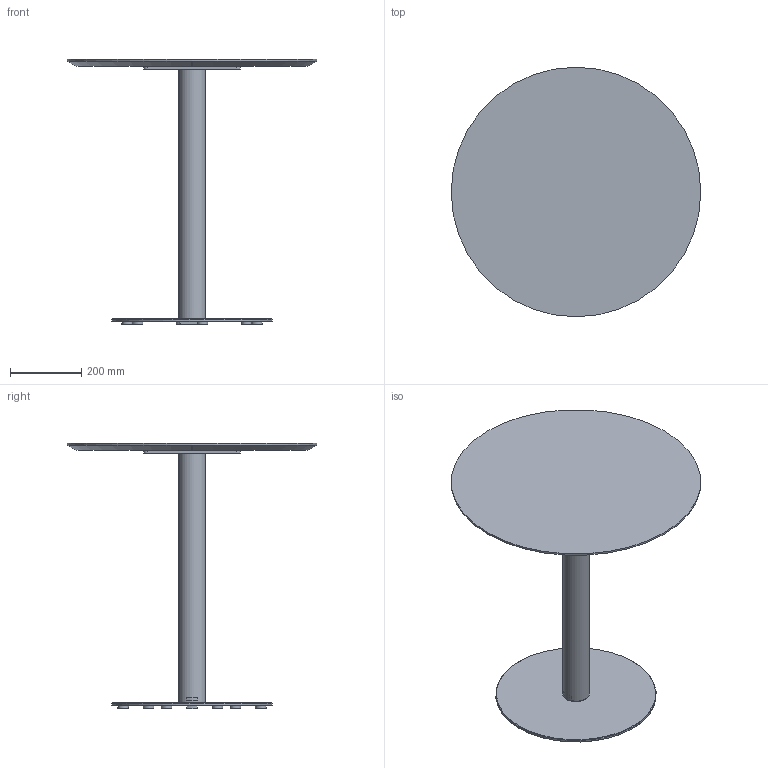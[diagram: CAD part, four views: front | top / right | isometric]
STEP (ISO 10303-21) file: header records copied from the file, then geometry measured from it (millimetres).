
FILE_DESCRIPTION( ('This file contains a STEP AP42 implementation' ,'as created by ZW3D STEP Interface translator.') ,'2;1' );
FILE_NAME( 'Henri - B_Rond - F1 - M5 - 700 x 700 x 750.stp' ,'24 912.151712', (''), ('ZWCAD Software Co.'), 'Version 1.0', 'ZW3D to STEP translator', '' );
FILE_SCHEMA(('AUTOMOTIVE_DESIGN { 1 0 10303 214 1 1 1 1 }'));
Length unit declared in the file: millimetre
Products named in the file (14): 0; PIED BISTROT PARAMETRIQUE_; COLONNE ACIER Ø76 V.02_; TUB-D076-02_; PLA-R76B-01_; SOCLE ACIER C Ø450 V.02_; SCL-D450-02_; PLA-R30A-01_; PLA-R30A-01; CROIX ACIER 370 V.02_; CRX-X370-02_; WUERTH 0276063020 Euro-screw 6.3x2 Verzinkt_; PLATEAU BISTROT PARAMETRIQUE_; insert_m6_13_
Assembly tree (24 placements, depth 3):
  0
  PIED BISTROT PARAMETRIQUE_
    COLONNE ACIER Ø76 V.02_
      TUB-D076-02_
      PLA-R76B-01_  x2
    SOCLE ACIER C Ø450 V.02_
      SCL-D450-02_
      PLA-R30A-01_
      PLA-R30A-01  x5
    CROIX ACIER 370 V.02_
      CRX-X370-02_
    WUERTH 0276063020 Euro-screw 6.3x2 Verzinkt_
    PLATEAU BISTROT PARAMETRIQUE_
      insert_m6_13_  x8
Bounding box: 700 x 700 x 744 mm (x, y, z)
Volume: 9507192.7 mm3; surface area: 1644541.1 mm2
Topology: 21 solids, 21 shells, 516 faces, 1257 edges, 794 vertices
Faces by surface type: plane 250, bspline 121, cylinder 99, cone 45, torus 1
Full cylindrical faces by diameter (mm): 4.88 x1, 6 x8, 6.3 x1, 8 x47, 12 x2, 14 x2, 30 x6, 72 x1, 76 x1, 450 x1
Entity records: 11530 total; most frequent: CARTESIAN_POINT 3270, ORIENTED_EDGE 1494, DIRECTION 1388, EDGE_CURVE 747, VERTEX_POINT 482, VECTOR 464, LINE 464, AXIS2_PLACEMENT_3D 462
